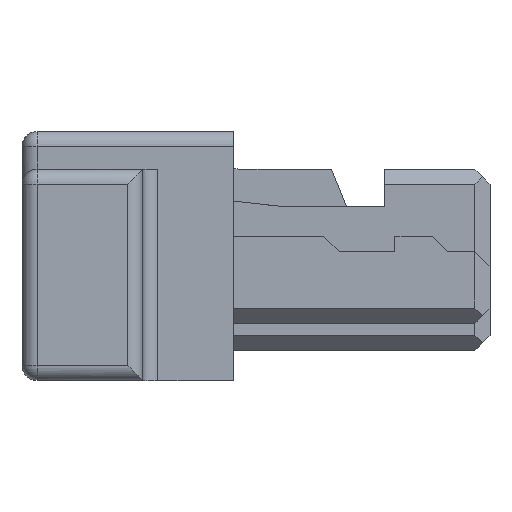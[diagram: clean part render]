
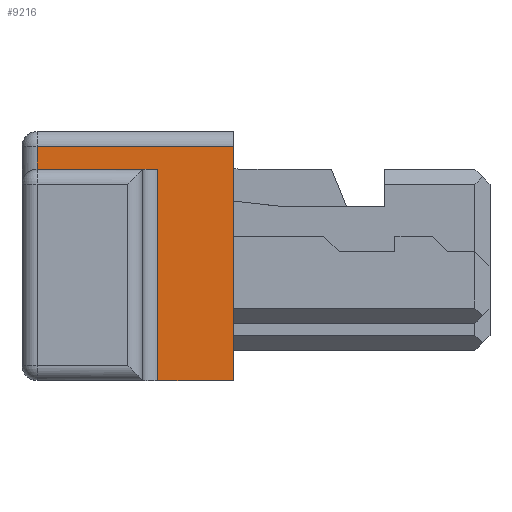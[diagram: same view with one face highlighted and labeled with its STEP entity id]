
A CAD part, front view. The second image highlights one B-rep face of the part: STEP entity #9216.
In plain terms, the highlighted planar face has unit normal (0, -1, 0).
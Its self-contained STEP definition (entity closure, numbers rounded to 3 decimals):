
#473=DIRECTION('',(0.,0.,1.));
#474=VECTOR('',#473,1.55);
#475=CARTESIAN_POINT('',(1.4,-0.8,-1.65));
#476=LINE('',#475,#474);
#532=DIRECTION('',(1.,0.,0.));
#533=VECTOR('',#532,0.5);
#534=CARTESIAN_POINT('',(0.9,-0.8,-1.65));
#535=LINE('',#534,#533);
#612=DIRECTION('',(0.,0.,1.));
#613=VECTOR('',#612,0.15);
#614=CARTESIAN_POINT('',(0.1,-0.8,-0.25));
#615=LINE('',#614,#613);
#620=DIRECTION('',(-1.,0.,0.));
#621=VECTOR('',#620,1.3);
#622=CARTESIAN_POINT('',(1.4,-0.8,-0.1));
#623=LINE('',#622,#621);
#643=DIRECTION('',(0.,0.,-1.));
#644=VECTOR('',#643,1.4);
#645=CARTESIAN_POINT('',(0.9,-0.8,-0.25));
#646=LINE('',#645,#644);
#725=DIRECTION('',(1.,0.,0.));
#726=VECTOR('',#725,0.8);
#727=CARTESIAN_POINT('',(0.1,-0.8,-0.25));
#728=LINE('',#727,#726);
#7654=CARTESIAN_POINT('',(0.1,-0.8,-0.25));
#7655=VERTEX_POINT('',#7654);
#7658=CARTESIAN_POINT('',(0.1,-0.8,-0.1));
#7659=VERTEX_POINT('',#7658);
#7662=CARTESIAN_POINT('',(1.4,-0.8,-1.65));
#7663=CARTESIAN_POINT('',(1.4,-0.8,-0.1));
#7664=VERTEX_POINT('',#7662);
#7665=VERTEX_POINT('',#7663);
#7699=CARTESIAN_POINT('',(0.9,-0.8,-1.65));
#7701=VERTEX_POINT('',#7699);
#7712=CARTESIAN_POINT('',(0.9,-0.8,-0.25));
#7713=VERTEX_POINT('',#7712);
#9200=CARTESIAN_POINT('',(0.75,-0.8,-0.875));
#9201=DIRECTION('',(0.,1.,0.));
#9202=DIRECTION('',(-1.,0.,0.));
#9203=AXIS2_PLACEMENT_3D('',#9200,#9201,#9202);
#9204=PLANE('',#9203);
#9205=ORIENTED_EDGE('',*,*,#9191,.T.);
#9207=ORIENTED_EDGE('',*,*,#9206,.F.);
#9208=ORIENTED_EDGE('',*,*,#8961,.F.);
#9209=ORIENTED_EDGE('',*,*,#9102,.F.);
#9211=ORIENTED_EDGE('',*,*,#9210,.F.);
#9213=ORIENTED_EDGE('',*,*,#9212,.F.);
#9214=EDGE_LOOP('',(#9205,#9207,#9208,#9209,#9211,#9213));
#9215=FACE_OUTER_BOUND('',#9214,.F.);
#8961=EDGE_CURVE('',#7664,#7665,#476,.T.);
#9102=EDGE_CURVE('',#7701,#7664,#535,.T.);
#9191=EDGE_CURVE('',#7655,#7659,#615,.T.);
#9206=EDGE_CURVE('',#7665,#7659,#623,.T.);
#9210=EDGE_CURVE('',#7713,#7701,#646,.T.);
#9212=EDGE_CURVE('',#7655,#7713,#728,.T.);
#9216=ADVANCED_FACE('',(#9215),#9204,.F.);
